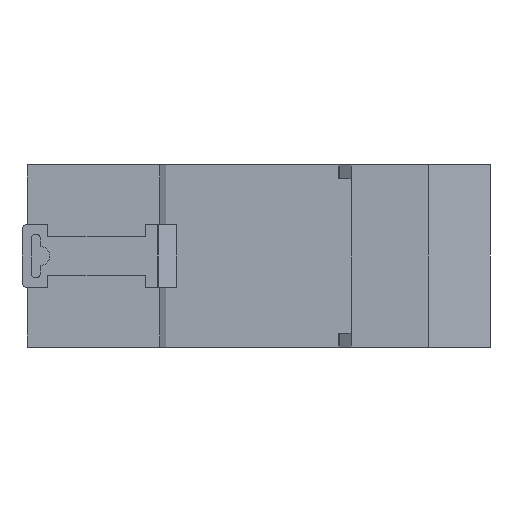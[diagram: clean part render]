
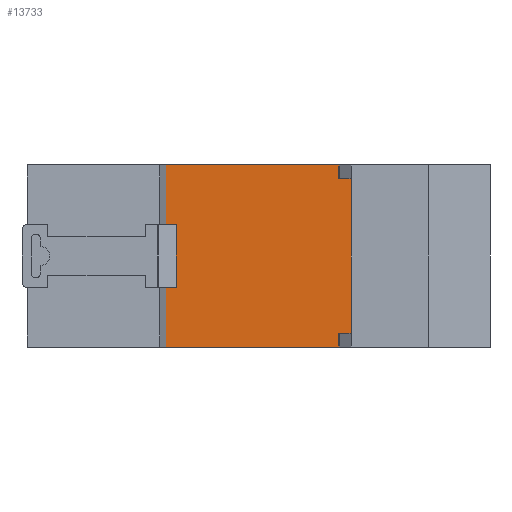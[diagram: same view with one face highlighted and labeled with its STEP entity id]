
A CAD part, left-side view. The second image highlights one B-rep face of the part: STEP entity #13733.
In plain terms, the highlighted planar face has unit normal (-1, 0, 0).
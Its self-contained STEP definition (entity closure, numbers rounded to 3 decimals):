
#332 = CARTESIAN_POINT ( 'NONE',  ( -60., -4.25, 35.4 ) ) ;
#798 = DIRECTION ( 'NONE',  ( 0., -1., 0. ) ) ;
#1414 = CARTESIAN_POINT ( 'NONE',  ( -60., -40.25, 35.4 ) ) ;
#1473 = CARTESIAN_POINT ( 'NONE',  ( -60., -40.25, 35.4 ) ) ;
#1686 = AXIS2_PLACEMENT_3D ( 'NONE', #4680, #8257, #3449 ) ;
#2274 = CARTESIAN_POINT ( 'NONE',  ( -60., -4.25, 0. ) ) ;
#2384 = VERTEX_POINT ( 'NONE', #9065 ) ;
#2393 = EDGE_CURVE ( 'NONE', #2384, #6636, #3227, .T. ) ;
#2495 = VECTOR ( 'NONE', #798, 1000. ) ;
#2953 = VECTOR ( 'NONE', #8600, 1000. ) ;
#3227 = LINE ( 'NONE', #11257, #2495 ) ;
#3328 = EDGE_CURVE ( 'NONE', #2384, #8360, #7772, .T. ) ;
#3449 = DIRECTION ( 'NONE',  ( 0., 1., 0. ) ) ;
#3712 = LINE ( 'NONE', #2274, #10918 ) ;
#3839 = VECTOR ( 'NONE', #6118, 1000. ) ;
#4680 = CARTESIAN_POINT ( 'NONE',  ( -60., -4.25, 35.4 ) ) ;
#6118 = DIRECTION ( 'NONE',  ( 0., 0., -1. ) ) ;
#6214 = EDGE_LOOP ( 'NONE', ( #11088, #7428, #14440, #12959 ) ) ;
#6636 = VERTEX_POINT ( 'NONE', #1473 ) ;
#7428 = ORIENTED_EDGE ( 'NONE', *, *, #9982, .F. ) ;
#7772 = LINE ( 'NONE', #332, #2953 ) ;
#8257 = DIRECTION ( 'NONE',  ( 1., 0., 0. ) ) ;
#8360 = VERTEX_POINT ( 'NONE', #11450 ) ;
#8543 = EDGE_CURVE ( 'NONE', #8360, #9265, #3712, .T. ) ;
#8600 = DIRECTION ( 'NONE',  ( 0., 0., -1. ) ) ;
#9065 = CARTESIAN_POINT ( 'NONE',  ( -60., -4.25, 35.4 ) ) ;
#9232 = LINE ( 'NONE', #1414, #3839 ) ;
#9265 = VERTEX_POINT ( 'NONE', #10956 ) ;
#9444 = DIRECTION ( 'NONE',  ( 0., -1., 0. ) ) ;
#9982 = EDGE_CURVE ( 'NONE', #6636, #9265, #9232, .T. ) ;
#10918 = VECTOR ( 'NONE', #9444, 1000. ) ;
#10956 = CARTESIAN_POINT ( 'NONE',  ( -60., -40.25, 0. ) ) ;
#10961 = FACE_OUTER_BOUND ( 'NONE', #6214, .T. ) ;
#11088 = ORIENTED_EDGE ( 'NONE', *, *, #8543, .T. ) ;
#11257 = CARTESIAN_POINT ( 'NONE',  ( -60., -4.25, 35.4 ) ) ;
#11450 = CARTESIAN_POINT ( 'NONE',  ( -60., -4.25, 0. ) ) ;
#12959 = ORIENTED_EDGE ( 'NONE', *, *, #3328, .T. ) ;
#13733 = ADVANCED_FACE ( 'NONE', ( #10961 ), #15293, .F. ) ;
#14440 = ORIENTED_EDGE ( 'NONE', *, *, #2393, .F. ) ;
#15293 = PLANE ( 'NONE',  #1686 ) ;
